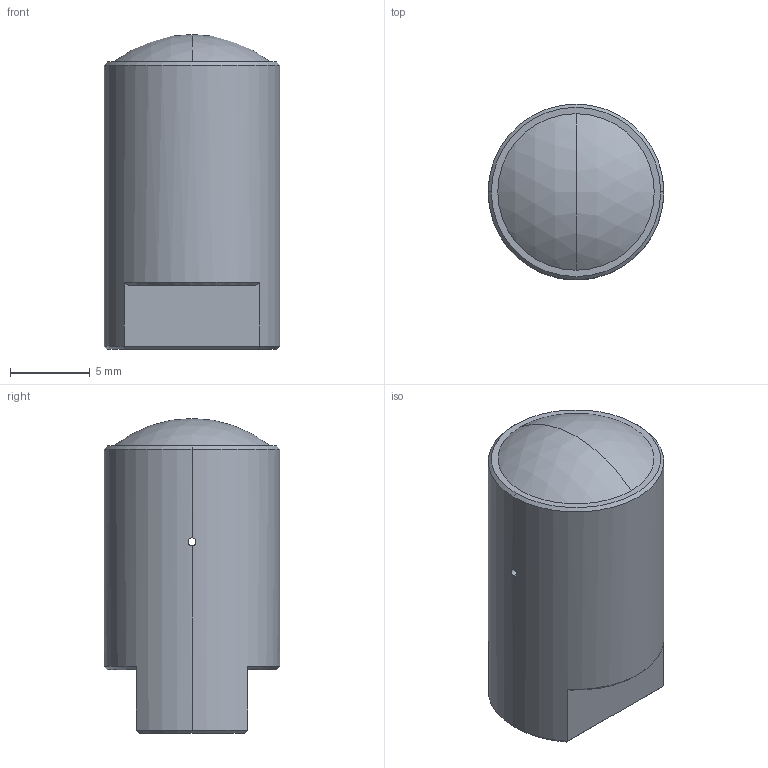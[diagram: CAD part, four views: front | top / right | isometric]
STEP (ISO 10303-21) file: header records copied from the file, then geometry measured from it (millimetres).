
FILE_DESCRIPTION (( 'STEP AP214' ), '1' );
FILE_NAME ('FTL-M4V3.STEP', '2020-10-31T06:58:59', ( '' ), ( '' ), 'SwSTEP 2.0', 'SolidWorks 2018', '' );
FILE_SCHEMA (( 'AUTOMOTIVE_DESIGN' ));
Length unit declared in the file: millimetre
Products named in the file (1): FTL-M4V3
Bounding box: 11 x 11 x 19.72 mm (x, y, z)
Volume: 1643.6 mm3; surface area: 877.4 mm2
Topology: 1 solids, 1 shells, 39 faces, 98 edges, 61 vertices
Faces by surface type: cylinder 15, plane 10, cone 9, bspline 3, sphere 2
Entity records: 1842 total; most frequent: CARTESIAN_POINT 960, ORIENTED_EDGE 196, DIRECTION 158, EDGE_CURVE 98, AXIS2_PLACEMENT_3D 61, VERTEX_POINT 61, EDGE_LOOP 41, FACE_OUTER_BOUND 39
